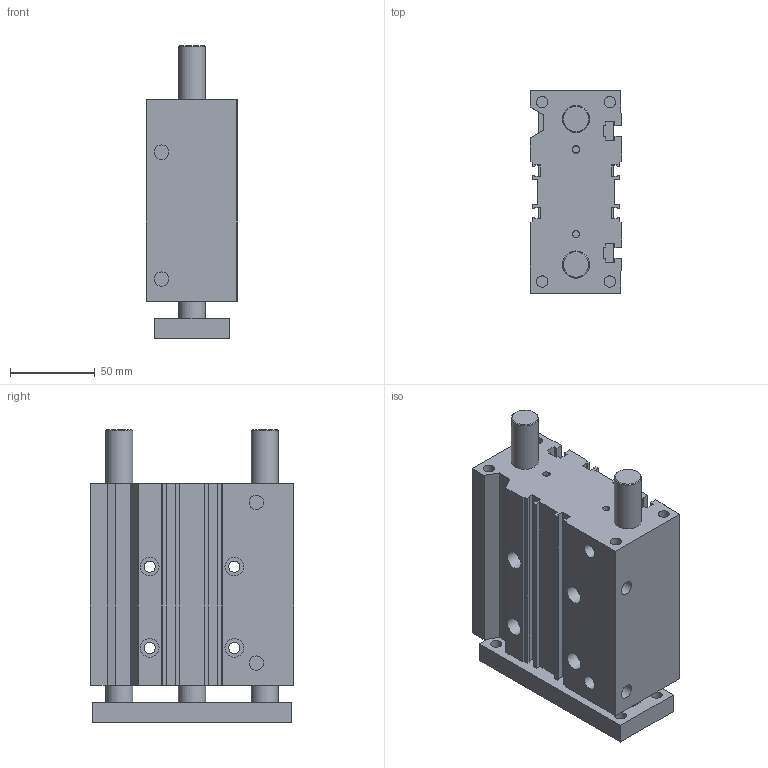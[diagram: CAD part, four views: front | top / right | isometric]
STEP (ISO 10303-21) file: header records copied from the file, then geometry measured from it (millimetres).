
FILE_DESCRIPTION((''),'2;1');
FILE_NAME('I:\Area Tecnica\Disegni\VARIE-3D\Componenti\6100\6100 Ø20-63\6100_##_###_#\6100400075C.stp','2012-01-11T09:04:02',('airolcr1'),(''),'Autodesk Inventor 2012','Autodesk Inventor 2012','');
FILE_SCHEMA(('AUTOMOTIVE_DESIGN { 1 0 10303 214 1 1 1 1 }'));
Length unit declared in the file: millimetre
Products named in the file (3): 6100400075C; CUCORPO Ø40 C75 C; CUPIASTRA Ø40 C75 C
Assembly tree (2 placements, depth 2):
  6100400075C
    CUCORPO Ø40 C75 C
    CUPIASTRA Ø40 C75 C
Bounding box: 54 x 120 x 173 mm (x, y, z)
Volume: 775911.3 mm3; surface area: 124839.4 mm2
Topology: 2 solids, 2 shells, 166 faces, 417 edges, 277 vertices
Faces by surface type: plane 126, cylinder 38, cone 2
Full cylindrical faces by diameter (mm): 4 x6, 6.647 x8, 6.65 x4, 8.566 x4, 11 x4, 16 x6
Entity records: 5013 total; most frequent: CARTESIAN_POINT 815, DIRECTION 798, ORIENTED_EDGE 750, EDGE_CURVE 375, VECTOR 294, LINE 294, VERTEX_POINT 269, AXIS2_PLACEMENT_3D 252
